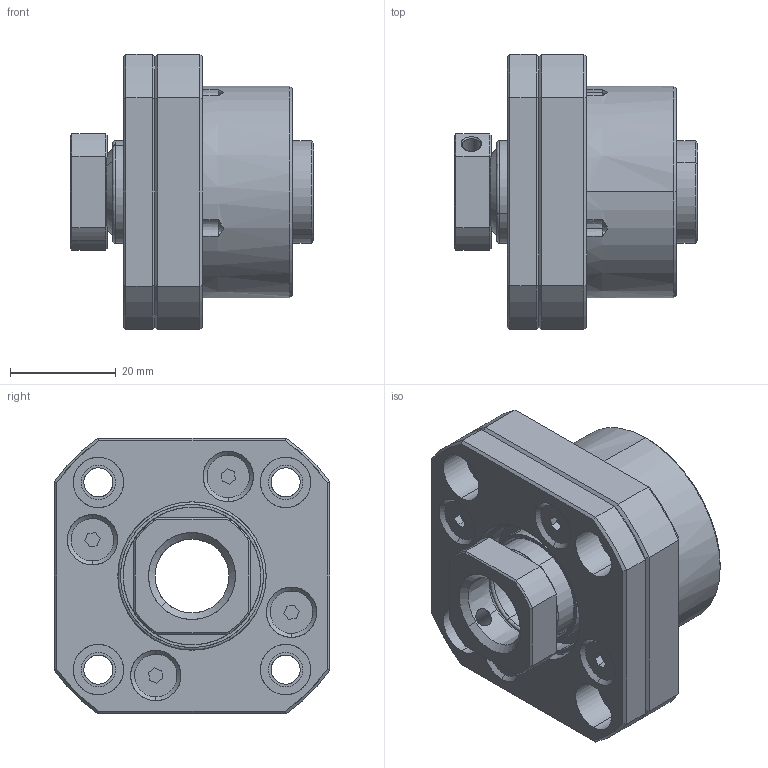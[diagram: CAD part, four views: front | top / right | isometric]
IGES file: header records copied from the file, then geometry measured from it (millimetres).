
Start section: SolidWorks IGES file using analytic representation for surfaces
Global section: file name: 4HC:\Users\117\Desktop\FK15組合A.IGS; native system: SolidWorks 2018; preprocessor: SolidWorks 2018; author: 117; date: 210929.092516; units: millimetre
Bounding box: 46 x 52 x 52 mm (x, y, z)
Surface area: 19218.5 mm2 (no closed solid volume)
Topology: 0 solids, 0 shells, 218 faces, 2878 edges, 2878 vertices
Faces by surface type: revolution 117, bspline 101
